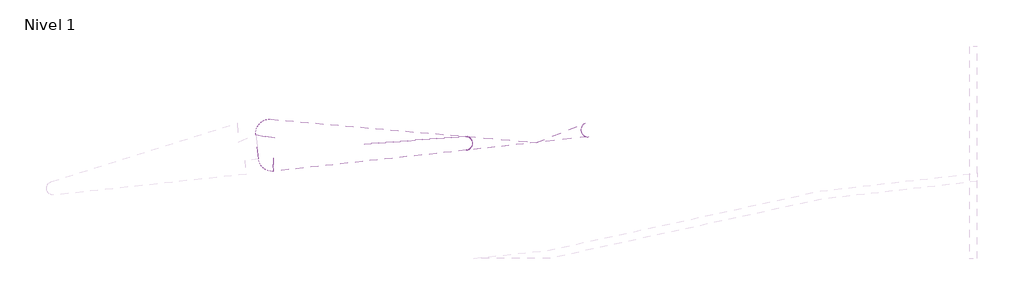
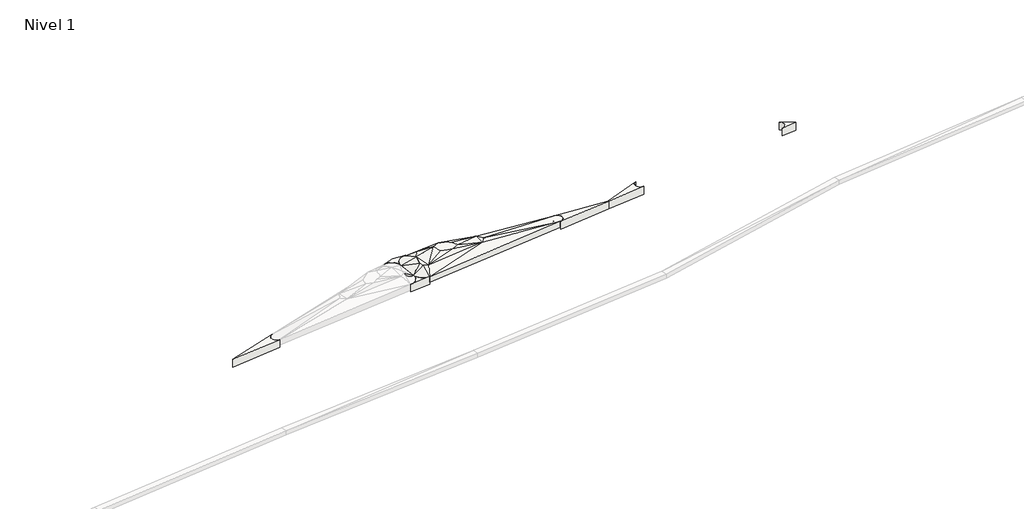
# One storey, part 7 of 45: 2 slabs.
"""IFC4 building model written with IfcOpenShell, lengths in millimetres."""

import ifcopenshell
import ifcopenshell.guid

model = None  # the IFC model being written
_history = None  # IfcOwnerHistory: only IFC2X3 demands one
_inside = {}  # id of a spatial element -> (the spatial element, [elements in it])
_under = {}  # id of a project, library or spatial element -> (it, [spatial elements below it])
_declared = {}  # id of a project -> (the project, [libraries it declares])
_typed = {}  # id of a type object -> (the type object, [elements of that type])
_made_of = {}  # id of a material, layer set ... -> (it, [elements and type objects made of it])


def new_model(schema):
    """Start an empty IFC model of exactly this schema.

    Asked for "IFC4X3", IfcOpenShell would pick the latest addendum, in which some entities
    have other attributes; the version numbers below select the first issue.
    IFC2X3 requires an IfcOwnerHistory on every rooted entity: one is made here for all.
    """
    global model, _history
    if schema == "IFC4X3":
        model = ifcopenshell.file(schema_version=(4, 3, 0, 0))
    else:
        model = ifcopenshell.file(schema=schema)
    _inside.clear()
    _under.clear()
    _declared.clear()
    _typed.clear()
    _made_of.clear()
    _history = None
    if model.schema == "IFC2X3":
        org = make("IfcOrganization", Name="unknown")
        user = make(
            "IfcPersonAndOrganization",
            ThePerson=make("IfcPerson", FamilyName="unknown"),
            TheOrganization=org,
        )
        app = make(
            "IfcApplication",
            ApplicationDeveloper=org,
            Version="unknown",
            ApplicationFullName="unknown",
            ApplicationIdentifier="unknown",
        )
        _history = make(
            "IfcOwnerHistory",
            OwningUser=user,
            OwningApplication=app,
            ChangeAction="ADDED",
            CreationDate=0,
        )
    return model


def make(cls, **values):
    """One entity of the class cls with the attributes given. An attribute that is None is left unset."""
    return model.create_entity(
        cls, **{name: value for name, value in values.items() if value is not None}
    )


def rooted(cls, **values):
    """An entity with a GlobalId (a new one), such as an element, a storey or a relation."""
    return make(cls, GlobalId=ifcopenshell.guid.new(), OwnerHistory=_history, **values)


def si_unit(unit_type, name, prefix=None):
    """IfcSIUnit, for example si_unit("LENGTHUNIT", "METRE", prefix="MILLI")."""
    return make("IfcSIUnit", UnitType=unit_type, Prefix=prefix, Name=name)


def assignment(units):
    """IfcUnitAssignment: the units of a project."""
    return None if units is None else make("IfcUnitAssignment", Units=units)


def point(xyz):
    """IfcCartesianPoint."""
    return None if xyz is None else make("IfcCartesianPoint", Coordinates=xyz)


def direction(xyz):
    """IfcDirection."""
    return None if xyz is None else make("IfcDirection", DirectionRatios=xyz)


def frame(location, z_axis=None, x_axis=None):
    """IfcAxis2Placement3D, a coordinate frame: its origin and axes. An axis left out is left unset."""
    return make(
        "IfcAxis2Placement3D",
        Location=point(location),
        Axis=direction(z_axis),
        RefDirection=direction(x_axis),
    )


def origin():
    """The frame at (0, 0, 0) with its axes left unset."""
    return frame((0.0, 0.0, 0.0))


def place(relative_to, where):
    """IfcLocalPlacement: puts the frame where relative to a parent placement (None: the world)."""
    return make(
        "IfcLocalPlacement", PlacementRelTo=relative_to, RelativePlacement=where
    )


def context(
    kind, dimensions, precision=None, world=None, true_north=None, identifier=None
):
    """IfcGeometricRepresentationContext, for example the 3D "Model" context."""
    return make(
        "IfcGeometricRepresentationContext",
        ContextIdentifier=identifier,
        ContextType=kind,
        CoordinateSpaceDimension=dimensions,
        Precision=precision,
        WorldCoordinateSystem=world,
        TrueNorth=true_north,
    )


def project(units=None, contexts=None):
    """IfcProject with its units and contexts."""
    return rooted(
        "IfcProject",
        Name="project",
        RepresentationContexts=contexts,
        UnitsInContext=assignment(units),
    )


def spatial(cls, under=None, at=None, **own):
    """A site, building, storey or space (cls), placed at a placement, below another one or the project."""
    s = rooted(cls, ObjectPlacement=at, **own)
    if under is not None:
        _under.setdefault(under.id(), (under, []))[1].append(s)
    return s


def polyline(points):
    """IfcPolyline through the points."""
    return make("IfcPolyline", Points=[point(p) for p in points])


def circle_curve(where, radius):
    """IfcCircle in the frame where."""
    return make("IfcCircle", Position=where, Radius=radius)


def shape(context_of_items, identifier, shape_type, items):
    """IfcShapeRepresentation: the items that make up one representation, for example the "Body"."""
    return make(
        "IfcShapeRepresentation",
        ContextOfItems=context_of_items,
        RepresentationIdentifier=identifier,
        RepresentationType=shape_type,
        Items=items,
    )


def made_of(thing, what):
    """Note that an element or type object is made of a material, layer set ...; save() writes the relation."""
    if what is not None:
        _made_of.setdefault(what.id(), (what, []))[1].append(thing)
    return thing


def element(
    cls,
    number,
    at=None,
    inside=None,
    cuts=None,
    type_object=None,
    material=None,
    context=None,
    identifier="Body",
    shape_type=None,
    held_by="IfcProductDefinitionShape",
    body=None,
    shapes=None,
    **own,
):
    """One element of the class cls, such as IfcWall. Its Tag is "e" and its number.

    at: its placement. inside: the storey or other place that contains it. cuts: it is an
    opening in that element (IfcRelVoidsElement). A single representation is given by context,
    identifier, shape_type and body (its items); several are given by shapes. held_by: the class
    of the entity that holds the representations. save() writes the other relations.
    """
    e = rooted(cls, Tag="e%d" % number, ObjectPlacement=at, **own)
    if body is not None:
        shapes = [shape(context, identifier, shape_type, body)]
    if shapes is not None:
        e.Representation = make(held_by, Representations=shapes)
    if inside is not None:
        _inside.setdefault(inside.id(), (inside, []))[1].append(e)
    if cuts is not None:
        rooted(
            "IfcRelVoidsElement", RelatingBuildingElement=cuts, RelatedOpeningElement=e
        )
    if type_object is not None:
        _typed.setdefault(type_object.id(), (type_object, []))[1].append(e)
    return made_of(e, material)


def aggregate(whole, parts):
    """IfcRelAggregates: a whole, such as a stair, and the parts it consists of."""
    return rooted("IfcRelAggregates", RelatingObject=whole, RelatedObjects=parts)


def save(model, path):
    """Write the relations noted so far, then the file.

    IfcRelAggregates (storeys below a building ...), IfcRelContainedInSpatialStructure (elements
    in a storey), IfcRelDefinesByType, IfcRelAssociatesMaterial and IfcRelDeclares: one each for
    every whole, place, type object, material and project.
    """
    for whole, parts in _under.values():
        aggregate(whole, parts)
    for where, things in _inside.values():
        rooted(
            "IfcRelContainedInSpatialStructure",
            RelatedElements=things,
            RelatingStructure=where,
        )
    for kind, things in _typed.values():
        rooted("IfcRelDefinesByType", RelatedObjects=things, RelatingType=kind)
    for what, things in _made_of.values():
        rooted("IfcRelAssociatesMaterial", RelatedObjects=things, RelatingMaterial=what)
    for by, libraries in _declared.values():
        rooted("IfcRelDeclares", RelatingContext=by, RelatedDefinitions=libraries)
    model.write(path)


def plane_surface(at):
    """IfcPlane: the flat surface through the origin of the frame at, square to its z axis."""
    return make("IfcPlane", Position=at)


def cylinder_surface(at, radius):
    """IfcCylindricalSurface: all points at the distance radius from the z axis of the frame at."""
    return make("IfcCylindricalSurface", Position=at, Radius=radius)


def revolved_surface(curve, axis_point, axis_direction):
    """IfcSurfaceOfRevolution: the curve turned about the line through axis_point along axis_direction."""
    return make(
        "IfcSurfaceOfRevolution",
        SweptCurve=make("IfcArbitraryOpenProfileDef", ProfileType="CURVE", Curve=curve),
        AxisPosition=make("IfcAxis1Placement", Location=point(axis_point), Axis=direction(axis_direction)),
    )


def spline_surface(u_degree, v_degree, points, u_multiplicities, v_multiplicities, u_knots, v_knots, weights=None):
    """IfcBSplineSurfaceWithKnots; with weights, IfcRationalBSplineSurfaceWithKnots. points: one row for each step in u."""
    own = dict(
        UDegree=u_degree,
        VDegree=v_degree,
        ControlPointsList=[[point(p) for p in row] for row in points],
        SurfaceForm="UNSPECIFIED",
        UClosed=False,
        VClosed=False,
        SelfIntersect=False,
        UMultiplicities=u_multiplicities,
        VMultiplicities=v_multiplicities,
        UKnots=u_knots,
        VKnots=v_knots,
        KnotSpec="UNSPECIFIED",
    )
    if weights is None:
        return make("IfcBSplineSurfaceWithKnots", **own)
    return make("IfcRationalBSplineSurfaceWithKnots", WeightsData=weights, **own)


def advanced_brep(points, edges, surfaces, faces):
    """IfcAdvancedBrep: a solid bounded by faces that lie on surfaces and meet in shared edges.

    An edge is (start, end): straight between two places in points (the first is 0);
    or (start, end, curve); or (start, end, curve, False) where it runs against its curve.
    A face is (place in surfaces, loops), or (place, loops, False) where it looks against
    its surface's normal. A loop lists edges by number (the first is 1), with a minus sign
    where the edge is run from its end to its start. The first loop is the outer one.
    """
    corners = [point(p) for p in points]
    vertices = [make("IfcVertexPoint", VertexGeometry=c) for c in corners]
    made = []
    for start, end, *more in edges:
        made.append(
            make(
                "IfcEdgeCurve",
                EdgeStart=vertices[start],
                EdgeEnd=vertices[end],
                EdgeGeometry=more[0] if more else make("IfcPolyline", Points=[corners[start], corners[end]]),
                SameSense=more[1] if len(more) > 1 else True,
            )
        )
    hull = []
    for where, loops, *sense in faces:
        bounds = []
        for j, loop in enumerate(loops):
            ring = [make("IfcOrientedEdge", EdgeElement=made[abs(k) - 1], Orientation=k > 0) for k in loop]
            bounds.append(
                make(
                    "IfcFaceOuterBound" if j == 0 else "IfcFaceBound",
                    Bound=make("IfcEdgeLoop", EdgeList=ring),
                    Orientation=True,
                )
            )
        hull.append(make("IfcAdvancedFace", Bounds=bounds, FaceSurface=surfaces[where], SameSense=sense[0] if sense else True))
    return make("IfcAdvancedBrep", Outer=make("IfcClosedShell", CfsFaces=hull))


model = new_model("IFC4")

# Units and contexts
model_context = context("Model", 3, world=origin())
ifc_project = project(units=[si_unit("LENGTHUNIT", "METRE", prefix="MILLI")], contexts=[model_context])

# Site, building, storey
site = spatial("IfcSite", under=ifc_project)
building = spatial("IfcBuilding", under=site)
storey = spatial("IfcBuildingStorey", under=building, Name="Nivel 1", Elevation=0.0)

# Slabs
placement = place(None, origin())
element("IfcSlab", 1, ObjectType="Lippia", at=placement, inside=storey, context=model_context, shape_type="AdvancedBrep", body=[
    advanced_brep(
    [(-177622.2301948, -468834.7688858, 4450.0), (-177622.2301948, -468834.7688858, 4750.0), (-177719.5832024, -467946.7537874, 4750.0), (-177719.5832024, -467946.7537874, 4450.0), (-177176.908669, -467394.3531145, 4750.0), (-177176.908669, -467394.3531145, 4450.0), (-170142.5961564, -468016.5109802, 4750.0), (-170142.5961564, -468016.5109802, 4450.0), (-170138.6386142, -468514.1892207, 4450.0), (-170138.6386142, -468514.1892207, 4750.0), (-177072.9607644, -469274.2877401, 4750.0), (-177072.9607644, -469274.2877401, 4450.0), (-177036.6097883, -468081.3160361, 5050.0), (-177153.7863625, -468567.9849508, 5050.0), (-177036.6097883, -468081.3160361, 4750.0), (-177153.7863625, -468567.9849508, 4750.0), (-175315.1193219, -468133.0046127, 5250.0), (-175577.7321184, -468010.5948546, 5250.0), (-175840.3449148, -467888.1850965, 5250.0), (-176185.7537357, -468044.0671766, 5250.0), (-176037.3018167, -468468.0815162, 5250.0), (-175756.5659875, -468535.9748381, 5250.0), (-175524.7127065, -468592.0463752, 5250.0), (-175182.3438857, -468441.1802589, 5250.0), (-175315.1193219, -468133.0046127, 4950.0), (-175182.3438857, -468441.1802589, 4950.0), (-175524.7127065, -468592.0463752, 4950.0), (-175756.5659875, -468535.9748381, 4950.0), (-176037.3018167, -468468.0815162, 4950.0), (-176185.7537357, -468044.0671766, 4950.0), (-175840.3449148, -467888.1850965, 4950.0), (-175577.7321184, -468010.5948546, 4950.0), (-176880.188072, -468874.6226661, 5050.0), (-177097.2701266, -468792.9364409, 5050.0), (-176880.188072, -468874.6226661, 4750.0), (-177097.2701266, -468792.9364409, 4750.0), (-176831.7166494, -467781.1218363, 5050.0), (-176831.7166494, -467781.1218363, 4750.0), (-176477.665638, -467698.9900077, 5050.0), (-174031.2685457, -468042.635805, 5050.0), (-174031.2685457, -468042.635805, 4750.0), (-176477.665638, -467698.9900077, 4750.0), (-174036.7161624, -468538.4792375, 5050.0), (-174036.7161624, -468538.4792375, 4750.0), (-173816.0601339, -468292.9411318, 5050.0), (-173816.0601339, -468292.9411318, 4750.0)],
    [
        (0, 1),
        (1, 2),
        (2, 3),
        (3, 0),
        (2, 4, circle_curve(frame((-177222.5576429, -467892.2649243, 4750.0), z_axis=(0.0, 0.0, -1.0), x_axis=(-0.19657437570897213, 0.9804889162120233, 0.0)), 499.9999992)),
        (4, 5),
        (5, 3, circle_curve(frame((-177222.5576429, -467892.2649243, 4450.0), z_axis=(0.0, 0.0, 1.0), x_axis=(-0.19657437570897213, 0.9804889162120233, 0.0)), 499.9999992)),
        (4, 6),
        (6, 7),
        (7, 5),
        (8, 9),
        (9, 10),
        (10, 11),
        (11, 8),
        (10, 1, circle_curve(frame((-177125.5712909, -468777.0633112, 4750.0), z_axis=(0.0, 0.0, -1.0), x_axis=(-0.19657437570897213, 0.9804889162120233, 0.0)), 500.0000001)),
        (0, 11, circle_curve(frame((-177125.5712909, -468777.0633112, 4450.0), z_axis=(0.0, 0.0, 1.0), x_axis=(-0.19657437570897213, 0.9804889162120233, 0.0)), 500.0000001)),
        (2, 12),
        (12, 4),
        (1, 13),
        (13, 2),
        (5, 14),
        (14, 3),
        (3, 15),
        (15, 0),
        (16, 17),
        (17, 18),
        (18, 19),
        (19, 20),
        (20, 21),
        (21, 22),
        (22, 23),
        (23, 16),
        (24, 25),
        (25, 26),
        (26, 27),
        (27, 28),
        (28, 29),
        (29, 30),
        (30, 31),
        (31, 24),
        (20, 32),
        (32, 22),
        (10, 32),
        (32, 33),
        (33, 10),
        (19, 32),
        (26, 34),
        (34, 28),
        (11, 35),
        (35, 34),
        (34, 11),
        (34, 29),
        (32, 12),
        (12, 13),
        (13, 33),
        (19, 12),
        (12, 36),
        (36, 4),
        (35, 15),
        (15, 14),
        (14, 34),
        (14, 29),
        (5, 37),
        (37, 14),
        (4, 38),
        (38, 39),
        (39, 4),
        (19, 38),
        (38, 36),
        (36, 19),
        (5, 40),
        (40, 41),
        (41, 5),
        (29, 37),
        (37, 41),
        (41, 29),
        (22, 42),
        (42, 23),
        (23, 39),
        (39, 16),
        (39, 18),
        (25, 43),
        (43, 26),
        (24, 40),
        (40, 25),
        (30, 40),
        (42, 39),
        (40, 43),
        (1, 33),
        (35, 0),
        (10, 42),
        (42, 32),
        (42, 44),
        (44, 39),
        (18, 38),
        (34, 43),
        (43, 11),
        (40, 45),
        (45, 43),
        (41, 30),
        (6, 9, circle_curve(frame((-170164.6220951, -468265.5431703, 4750.0), z_axis=(0.0, 0.0, -1.0), x_axis=(-0.19657437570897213, 0.9804889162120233, 0.0)), 249.9999994)),
        (8, 7, circle_curve(frame((-170164.6220951, -468265.5431703, 4450.0), z_axis=(0.0, 0.0, 1.0), x_axis=(-0.19657437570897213, 0.9804889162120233, 0.0)), 249.9999994)),
        (9, 42),
        (9, 44),
        (6, 44),
        (6, 39),
        (43, 8),
        (45, 8),
        (45, 7),
        (40, 7),
    ],
    [
        plane_surface(frame((-177622.2301948, -468834.7688858, 4450.0), z_axis=(-0.9940442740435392, -0.1089769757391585, 0.0), x_axis=(0.0, 0.0, 1.0))),
        cylinder_surface(frame((-177222.5576429, -467892.2649243, 4750.0), z_axis=(0.0, 0.0, -1.0), x_axis=(-0.19657437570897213, 0.9804889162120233, 0.0)), 499.9999992),
        plane_surface(frame((-177176.908669, -467394.3531145, 4450.0), z_axis=(0.08810222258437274, 0.9961114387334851, 0.0), x_axis=(0.0, 0.0, 1.0))),
        plane_surface(frame((-170138.6386142, -468514.1892207, 4450.0), z_axis=(0.10896131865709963, -0.9940459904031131, 0.0), x_axis=(0.0, 0.0, 1.0))),
        cylinder_surface(frame((-177125.5712909, -468777.0633112, 4750.0), z_axis=(0.0, 0.0, -1.0), x_axis=(-0.19657437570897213, 0.9804889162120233, 0.0)), 500.0000001),
        spline_surface(2, 1, [[(-177176.908669, -467394.3531145, 4750.0), (-177036.6097883, -468081.3160361, 5050.0)], [(-177413.05409741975, -467372.70310281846, 4750.0), (-177036.6097883, -468081.3160361, 5050.0)], [(-177579.23810925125, -467541.86651665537, 4750.0), (-177036.6097883, -468081.3160361, 5050.0)], [(-177745.42212107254, -467711.0299305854, 4750.0), (-177036.6097883, -468081.3160361, 5050.0)], [(-177719.5797792, -467946.7534121, 4750.0), (-177036.6097883, -468081.3160361, 5050.0)]], [3, 2, 3], [2, 2], [0.0, 1.0, 2.0], [0.0, 1.0], weights=[[1.0, 1.0], [0.9035324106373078, 0.9035324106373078], [1.0, 1.0], [0.9035324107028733, 0.9035324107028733], [1.0, 1.0]]),
        plane_surface(frame((-177498.5332532, -468449.8358747, 4850.0), z_axis=(-0.5154225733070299, -0.05650572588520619, 0.8550711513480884), x_axis=(0.10897697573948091, -0.9940442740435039, 0.0))),
        spline_surface(1, 2, [[(-177176.908669, -467394.3531145, 4450.0), (-177413.05409741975, -467372.70310281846, 4450.0), (-177579.23810925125, -467541.86651665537, 4450.0), (-177745.42212107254, -467711.0299305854, 4450.0), (-177719.5797792, -467946.7534121, 4450.0)], [(-177036.6097883, -468081.3160361, 4750.0), (-177036.6097883, -468081.3160361, 4750.0), (-177036.6097883, -468081.3160361, 4750.0), (-177036.6097883, -468081.3160361, 4750.0), (-177036.6097883, -468081.3160361, 4750.0)]], [2, 2], [3, 2, 3], [0.0, 1.0], [0.0, 1.0, 2.0], weights=[[1.0, 0.9035324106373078, 1.0, 0.9035324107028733, 1.0], [1.0, 0.9035324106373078, 1.0, 0.9035324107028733, 1.0]]),
        plane_surface(frame((-177498.5332532, -468449.8358747, 4550.0), z_axis=(0.5154225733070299, 0.05650572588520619, -0.8550711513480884), x_axis=(0.10897697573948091, -0.9940442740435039, 0.0))),
        plane_surface(frame((-175680.9293969, -468261.0941727, 5250.0), z_axis=(0.0, 0.0, 1.0), x_axis=(-0.9063720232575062, 0.4224804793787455, 0.0))),
        plane_surface(frame((-175680.9293969, -468261.0941727, 4950.0), z_axis=(0.0, 0.0, -1.0), x_axis=(-0.9063720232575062, 0.4224804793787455, 0.0))),
        plane_surface(frame((-176147.4008651, -468644.9168525, 5183.3333333), z_axis=(-0.07509005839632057, -0.31049401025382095, 0.947604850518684), x_axis=(-0.9719798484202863, 0.23506419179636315, 0.0))),
        plane_surface(frame((-177016.806321, -468980.6156157, 4950.0), z_axis=(-0.19779889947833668, -0.525652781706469, 0.8273842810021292), x_axis=(0.35990275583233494, 0.7461666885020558, 0.5600939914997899))),
        plane_surface(frame((-176367.7478748, -468462.2571196, 5183.3333333), z_axis=(-0.1984616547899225, -0.06948353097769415, 0.9776425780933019), x_axis=(-0.6307668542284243, -0.7544080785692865, -0.18166349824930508))),
        plane_surface(frame((-176147.4008651, -468644.9168525, 4883.3333333), z_axis=(0.07509005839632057, 0.31049401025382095, -0.947604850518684), x_axis=(-0.9719798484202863, 0.23506419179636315, 0.0))),
        plane_surface(frame((-177016.806321, -468980.6156157, 4650.0), z_axis=(0.19779889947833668, 0.525652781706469, -0.8273842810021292), x_axis=(0.35990275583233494, 0.7461666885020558, 0.5600939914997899))),
        plane_surface(frame((-176367.7478748, -468462.2571196, 4883.3333333), z_axis=(0.1984616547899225, 0.06948353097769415, -0.9776425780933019), x_axis=(-0.6307668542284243, -0.7544080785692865, -0.18166349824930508))),
        plane_surface(frame((-177041.9635874, -468579.2150235, 5050.0), z_axis=(0.0, 0.0, 1.0), x_axis=(-0.1934521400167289, 0.9811097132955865, 0.0))),
        plane_surface(frame((-176700.850532, -468333.3352929, 5116.6666667), z_axis=(-0.2267370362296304, -0.04470729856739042, 0.9729293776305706), x_axis=(-0.9725857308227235, -0.04257795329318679, -0.22861346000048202))),
        plane_surface(frame((-177015.0783689, -467752.2636623, 4950.0), z_axis=(-0.4229879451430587, 0.28870420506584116, 0.8589127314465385), x_axis=(0.1839675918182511, -0.9007834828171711, 0.3933764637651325))),
        plane_surface(frame((-177303.3264511, -468198.6849248, 4950.0), z_axis=(-0.38506660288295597, 0.0927135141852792, 0.918219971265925), x_axis=(0.6341459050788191, -0.6962767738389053, 0.33624042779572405))),
        plane_surface(frame((-177041.9635874, -468579.2150235, 4750.0), z_axis=(0.0, 0.0, -1.0), x_axis=(-0.1934521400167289, 0.9811097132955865, 0.0))),
        plane_surface(frame((-176700.850532, -468333.3352929, 4816.6666667), z_axis=(0.2267370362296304, 0.04470729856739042, -0.9729293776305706), x_axis=(-0.9725857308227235, -0.04257795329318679, -0.22861346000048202))),
        plane_surface(frame((-177015.0783689, -467752.2636623, 4650.0), z_axis=(0.4229879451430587, -0.28870420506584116, -0.8589127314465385), x_axis=(0.1839675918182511, -0.9007834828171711, 0.3933764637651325))),
        plane_surface(frame((-177303.3264511, -468198.6849248, 4650.0), z_axis=(0.38506660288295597, -0.0927135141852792, -0.918219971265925), x_axis=(0.6341459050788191, -0.6962767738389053, 0.33624042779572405))),
        plane_surface(frame((-175895.2809509, -467711.9929757, 4950.0), z_axis=(0.11495655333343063, 0.8183699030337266, 0.5630769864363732), x_axis=(0.8531513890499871, -0.3716896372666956, 0.36603213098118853))),
        plane_surface(frame((-176498.3786744, -467841.3930069, 5116.6666667), z_axis=(-0.1006337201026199, 0.4338083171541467, 0.8953676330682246), x_axis=(-0.5906065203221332, 0.6981723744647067, -0.4046470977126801))),
        plane_surface(frame((-175895.2809509, -467711.9929757, 4650.0), z_axis=(-0.11495655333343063, -0.8183699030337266, -0.5630769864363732), x_axis=(0.8531513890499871, -0.3716896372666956, 0.36603213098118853))),
        plane_surface(frame((-176498.3786744, -467841.3930069, 4816.6666667), z_axis=(0.1006337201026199, -0.4338083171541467, -0.8953676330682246), x_axis=(-0.5906065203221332, 0.6981723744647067, -0.4046470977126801))),
        plane_surface(frame((-174914.5909182, -468523.9019572, 5183.3333333), z_axis=(0.13758334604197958, -0.3122254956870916, 0.9399925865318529), x_axis=(-0.9150943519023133, -0.40323978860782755, 0.0))),
        plane_surface(frame((-174842.9105844, -468205.6068922, 5183.3333333), z_axis=(0.149187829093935, 0.06427658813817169, 0.9867175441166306), x_axis=(0.3956813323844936, -0.9183878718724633, 0.0))),
        plane_surface(frame((-175062.2442608, -468021.2751714, 5183.3333333), z_axis=(0.128890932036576, 0.2765172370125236, 0.95232628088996), x_axis=(0.9857014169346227, 0.0693824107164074, -0.15355389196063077))),
        plane_surface(frame((-174914.5909182, -468523.9019572, 4883.3333333), z_axis=(-0.13758334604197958, 0.3122254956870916, -0.9399925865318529), x_axis=(-0.9150943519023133, -0.40323978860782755, 0.0))),
        plane_surface(frame((-174842.9105844, -468205.6068922, 4883.3333333), z_axis=(-0.149187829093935, -0.06427658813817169, -0.9867175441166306), x_axis=(0.3956813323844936, -0.9183878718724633, 0.0))),
        plane_surface(frame((-175062.2442608, -468021.2751714, 4883.3333333), z_axis=(-0.128890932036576, -0.2765172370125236, -0.95232628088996), x_axis=(0.9857014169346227, 0.0693824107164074, -0.15355389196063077))),
        plane_surface(frame((-174416.7761979, -468340.7651005, 5116.6666667), z_axis=(0.1718199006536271, -0.0018877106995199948, 0.985126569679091), x_axis=(0.9816713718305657, -0.08337404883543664, -0.17137702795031))),
        plane_surface(frame((-174416.7761979, -468340.7651005, 4816.6666667), z_axis=(-0.1718199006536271, 0.0018877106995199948, -0.985126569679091), x_axis=(0.9816713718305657, -0.08337404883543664, -0.17137702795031))),
        plane_surface(frame((-177291.0955613, -468731.8967592, 4950.0), z_axis=(-0.48512903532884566, -0.1218825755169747, 0.8659067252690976), x_axis=(0.8661563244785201, 0.06902131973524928, 0.49498411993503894))),
        spline_surface(2, 1, [[(-177622.2301948, -468834.7688858, 4750.0), (-177097.2701266, -468792.9364409, 5050.0)], [(-177565.11324687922, -469326.36161197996, 4750.0), (-177097.2701266, -468792.9364409, 5050.0)], [(-177072.9607644, -469274.2877401, 4750.0), (-177097.2701266, -468792.9364409, 5050.0)]], [3, 3], [2, 2], [0.0, 1.0], [0.0, 1.0], weights=[[1.0, 1.0], [0.7107223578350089, 0.7107223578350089], [1.0, 1.0]]),
        plane_surface(frame((-177291.0955613, -468731.8967592, 4650.0), z_axis=(0.48512903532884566, 0.1218825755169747, -0.8659067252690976), x_axis=(0.8661563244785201, 0.06902131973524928, 0.49498411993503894))),
        spline_surface(1, 2, [[(-177622.2301948, -468834.7688858, 4450.0), (-177565.11324687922, -469326.36161197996, 4450.0), (-177072.9607644, -469274.2877401, 4450.0)], [(-177097.2701266, -468792.9364409, 4750.0), (-177097.2701266, -468792.9364409, 4750.0), (-177097.2701266, -468792.9364409, 4750.0)]], [2, 2], [3, 3], [0.0, 1.0], [0.0, 1.0], weights=[[1.0, 0.7107223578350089, 1.0], [1.0, 0.7107223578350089, 1.0]]),
        plane_surface(frame((-176684.6933911, -467968.8350163, 5116.6666667), z_axis=(-0.23249954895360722, 0.15868914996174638, 0.9595632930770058), x_axis=(-0.890320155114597, 0.3624132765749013, -0.2756567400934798))),
        plane_surface(frame((-176684.6933911, -467968.8350163, 4816.6666667), z_axis=(0.23249954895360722, -0.15868914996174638, -0.9595632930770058), x_axis=(-0.890320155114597, 0.3624132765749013, -0.2756567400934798))),
        plane_surface(frame((-175996.6216663, -468895.7965479, 4950.0), z_axis=(0.07342528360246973, -0.6211120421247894, 0.7802746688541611), x_axis=(0.9674183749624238, 0.23444575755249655, 0.09558699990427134))),
        plane_surface(frame((-173961.3482806, -468291.3520581, 5050.0), z_axis=(0.0, 0.0, 1.0000000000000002), x_axis=(-0.01098590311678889, -0.9999396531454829, 0.0))),
        plane_surface(frame((-176167.9214295, -467877.0807602, 5183.3333333), z_axis=(-0.17196163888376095, 0.3810384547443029, 0.9084266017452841), x_axis=(0.9114784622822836, 0.4113478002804, 0.0))),
        plane_surface(frame((-176828.7636521, -467624.8216528, 4950.0), z_axis=(-0.12443482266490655, 0.5364092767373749, 0.8347341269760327), x_axis=(0.5763234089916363, -0.6457387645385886, 0.5008720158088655))),
        plane_surface(frame((-175996.6216663, -468895.7965479, 4650.0), z_axis=(-0.07342528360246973, 0.6211120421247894, -0.7802746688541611), x_axis=(0.9674183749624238, 0.23444575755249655, 0.09558699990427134))),
        plane_surface(frame((-173961.3482806, -468291.3520581, 4750.0), z_axis=(0.0, 0.0, -1.0000000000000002), x_axis=(-0.01098590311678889, -0.9999396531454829, 0.0))),
        plane_surface(frame((-176167.9214295, -467877.0807602, 4883.3333333), z_axis=(0.17196163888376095, -0.3810384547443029, -0.9084266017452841), x_axis=(0.9114784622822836, 0.4113478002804, 0.0))),
        plane_surface(frame((-176828.7636521, -467624.8216528, 4650.0), z_axis=(0.12443482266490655, -0.5364092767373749, -0.8347341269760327), x_axis=(0.5763234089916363, -0.6457387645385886, 0.5008720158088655))),
        plane_surface(frame((-175480.5389803, -468668.3827596, 5116.6666667), z_axis=(0.10033661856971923, -0.8487577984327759, 0.5191750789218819), x_axis=(-0.9688982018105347, -0.20198645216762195, -0.14296065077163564))),
        plane_surface(frame((-175480.5389803, -468668.3827596, 4816.6666667), z_axis=(-0.10033661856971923, 0.8487577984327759, -0.5191750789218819), x_axis=(-0.9688982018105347, -0.20198645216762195, -0.14296065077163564))),
        plane_surface(frame((-175449.7596995, -467876.6036364, 5116.6666667), z_axis=(0.12474108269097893, 0.8880254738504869, 0.4425499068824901), x_axis=(0.9903849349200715, -0.08455455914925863, -0.10949067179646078))),
        plane_surface(frame((-175449.7596995, -467876.6036364, 4816.6666667), z_axis=(-0.12474108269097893, -0.8880254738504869, -0.4425499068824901), x_axis=(0.9903849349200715, -0.08455455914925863, -0.10949067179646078))),
        cylinder_surface(frame((-170164.6220951, -468265.5431703, 4750.0), z_axis=(0.0, 0.0, -1.0), x_axis=(-0.19657437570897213, 0.9804889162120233, 0.0)), 249.9999994),
        plane_surface(frame((-173749.4385137, -468775.6520661, 4850.0), z_axis=(0.06531467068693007, -0.595860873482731, 0.8004272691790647), x_axis=(0.9940459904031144, 0.10896131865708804, 0.0))),
        plane_surface(frame((-172663.8049701, -468448.53653, 4950.0), z_axis=(0.07697879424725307, -0.06917799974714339, 0.9946299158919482), x_axis=(0.9970323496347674, 0.006212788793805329, -0.0767326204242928))),
        spline_surface(2, 1, [[(-170138.6386142, -468514.1892207, 4750.0), (-173816.0601339, -468292.9411318, 5050.0)], [(-169912.8244133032, -468490.59166519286, 4750.0), (-173816.0601339, -468292.9411318, 5050.0)], [(-169914.63000138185, -468263.5550210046, 4750.0), (-173816.0601339, -468292.9411318, 5050.0)], [(-169916.43558954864, -468036.51837680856, 4750.0), (-173816.0601339, -468292.9411318, 5050.0)], [(-170142.5965395, -468016.5153112, 4750.0), (-173816.0601339, -468292.9411318, 5050.0)]], [3, 2, 3], [2, 2], [0.0, 1.0, 2.0], [0.0, 1.0], weights=[[1.0, 1.0], [0.740277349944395, 0.740277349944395], [1.0, 1.0], [0.7402773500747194, 0.7402773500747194], [1.0, 1.0]]),
        plane_surface(frame((-172663.3082787, -468117.362639, 4950.0), z_axis=(0.07631463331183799, 0.0656140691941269, 0.9949225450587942), x_axis=(0.6519449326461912, -0.7582663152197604, 0.0))),
        plane_surface(frame((-173783.5911237, -467817.8332999, 4850.0), z_axis=(0.055611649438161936, 0.6287627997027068, 0.7756060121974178), x_axis=(0.9751721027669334, -0.20097251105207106, 0.09300225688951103))),
        plane_surface(frame((-173749.4385137, -468775.6520661, 4550.0), z_axis=(-0.06531467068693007, 0.595860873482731, -0.8004272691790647), x_axis=(0.9940459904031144, 0.10896131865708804, 0.0))),
        plane_surface(frame((-172663.8049701, -468448.53653, 4650.0), z_axis=(-0.07697879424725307, 0.06917799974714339, -0.9946299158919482), x_axis=(0.9970323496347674, 0.006212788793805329, -0.0767326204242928))),
        spline_surface(1, 2, [[(-170138.6386142, -468514.1892207, 4450.0), (-169912.8244133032, -468490.59166519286, 4450.0), (-169914.63000138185, -468263.5550210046, 4450.0), (-169916.43558954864, -468036.51837680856, 4450.0), (-170142.5965395, -468016.5153112, 4450.0)], [(-173816.0601339, -468292.9411318, 4750.0), (-173816.0601339, -468292.9411318, 4750.0), (-173816.0601339, -468292.9411318, 4750.0), (-173816.0601339, -468292.9411318, 4750.0), (-173816.0601339, -468292.9411318, 4750.0)]], [2, 2], [3, 2, 3], [0.0, 1.0], [0.0, 1.0, 2.0], weights=[[1.0, 0.740277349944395, 1.0, 0.7402773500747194, 1.0], [1.0, 0.740277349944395, 1.0, 0.7402773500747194, 1.0]]),
        plane_surface(frame((-172663.3082787, -468117.362639, 4650.0), z_axis=(-0.07631463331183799, -0.0656140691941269, -0.9949225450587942), x_axis=(0.6519449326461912, -0.7582663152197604, 0.0))),
        plane_surface(frame((-173783.5911237, -467817.8332999, 4550.0), z_axis=(-0.055611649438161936, -0.6287627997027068, -0.7756060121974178), x_axis=(0.9751721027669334, -0.20097251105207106, 0.09300225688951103))),
    ],
    [
        (0, [[1, 2, 3, 4]]),
        (1, [[-3, 5, 6, 7]]),
        (2, [[-6, 8, 9, 10]]),
        (3, [[11, 12, 13, 14]]),
        (4, [[-13, 15, -1, 16]]),
        (5, [[-5, 17, 18]]),
        (6, [[-2, 19, 20]]),
        (7, [[21, 22, -7]]),
        (8, [[23, 24, -4]]),
        (9, [[25, 26, 27, 28, 29, 30, 31, 32]]),
        (10, [[33, 34, 35, 36, 37, 38, 39, 40]]),
        (11, [[-29, 41, 42, -30]]),
        (12, [[43, 44, 45]]),
        (13, [[46, -41, -28]]),
        (14, [[-35, 47, 48, -36]]),
        (15, [[49, 50, 51]]),
        (16, [[-37, -48, 52]]),
        (17, [[53, 54, 55, -44]]),
        (18, [[56, -53, -46]]),
        (19, [[-18, 57, 58]]),
        (20, [[-20, -54, -17]]),
        (21, [[-50, 59, 60, 61]]),
        (22, [[-52, -61, 62]]),
        (23, [[63, 64, -21]]),
        (24, [[-22, -60, -23]]),
        (25, [[65, 66, 67]]),
        (26, [[68, 69, 70]]),
        (27, [[71, 72, 73]]),
        (28, [[74, 75, 76]]),
        (29, [[-31, 77, 78]]),
        (30, [[-32, 79, 80]]),
        (31, [[-80, 81, -26, -25]]),
        (32, [[82, 83, -34]]),
        (33, [[84, 85, -33]]),
        (34, [[-40, -39, 86, -84]]),
        (35, [[-78, 87, -79]]),
        (36, [[-85, 88, -82]]),
        (37, [[89, -55, -19]]),
        (38, [[-45, -89, -15]]),
        (39, [[-24, -59, 90]]),
        (40, [[-16, -90, -49]]),
        (41, [[-70, -57, -56]]),
        (42, [[-62, -64, -74]]),
        (43, [[91, 92, -43]]),
        (44, [[-87, 93, 94]]),
        (45, [[-27, 95, -68]]),
        (46, [[-58, -69, -65]]),
        (47, [[-51, 96, 97]]),
        (48, [[98, 99, -88]]),
        (49, [[-76, 100, -38]]),
        (50, [[-73, -75, -63]]),
        (51, [[-42, -92, -77]]),
        (52, [[-83, -96, -47]]),
        (53, [[-81, -66, -95]]),
        (54, [[-100, -72, -86]]),
        (55, [[-9, 101, -11, 102]]),
        (56, [[-12, 103, -91]]),
        (57, [[-103, 104, -93]]),
        (58, [[-104, -101, 105]]),
        (59, [[-94, -105, 106]]),
        (60, [[-67, -106, -8]]),
        (61, [[-97, 107, -14]]),
        (62, [[-99, 108, -107]]),
        (63, [[109, -102, -108]]),
        (64, [[110, -109, -98]]),
        (65, [[-10, -110, -71]]),
    ],
),
])
element("IfcSlab", 2, ObjectType="Bordillo", at=placement, inside=storey, context=model_context, shape_type="AdvancedBrep", body=[
    advanced_brep(
    [(-157669.3560943, -467147.320502, 4350.0), (-157669.3560943, -467147.320502, 4750.0), (-158383.6254023, -467225.6157732, 4750.0), (-158383.6254023, -467225.6157732, 4350.0), (-158265.6478271, -466768.1496694, 4750.0), (-158265.6478271, -466768.1496694, 4350.0)],
    [
        (0, 1),
        (1, 2),
        (2, 3),
        (3, 0),
        (2, 4, circle_curve(frame((-158411.1434507, -466974.5751029, 4750.0), z_axis=(0.0, 0.0, 1.0), x_axis=(-0.19670504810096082, 0.9804627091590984, 0.0)), 252.5478887)),
        (4, 5),
        (5, 3, circle_curve(frame((-158411.1434507, -466974.5751029, 4350.0), z_axis=(0.0, 0.0, -1.0), x_axis=(-0.19670504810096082, 0.9804627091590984, 0.0)), 252.5478887)),
        (4, 1),
        (0, 5),
    ],
    [
        plane_surface(frame((-157669.3560943, -467147.320502, 4350.0), z_axis=(0.1089632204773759, -0.994045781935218, 0.0), x_axis=(0.0, 0.0, 1.0))),
        revolved_surface(polyline([(-158460.82089529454, -466726.96131575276, 4750.0), (-158460.82089529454, -466726.96131575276, 4350.0)]), (-158411.1434507, -466974.5751029, 4750.0), (0.0, 0.0, 1.0)),
        plane_surface(frame((-158265.6478271, -466768.1496694, 4350.0), z_axis=(0.536585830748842, 0.8438457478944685, 0.0), x_axis=(0.0, 0.0, 1.0))),
        plane_surface(frame((-158106.2097746, -467047.0286482, 4750.0), z_axis=(0.0, 0.0, 1.0), x_axis=(-0.19670504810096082, 0.9804627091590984, 0.0))),
        plane_surface(frame((-158106.2097746, -467047.0286482, 4350.0), z_axis=(0.0, 0.0, -1.0), x_axis=(-0.19670504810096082, 0.9804627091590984, 0.0))),
    ],
    [
        (0, [[1, 2, 3, 4]]),
        (1, [[-3, 5, 6, 7]]),
        (2, [[-6, 8, -1, 9]]),
        (3, [[-5, -2, -8]]),
        (4, [[-9, -4, -7]]),
    ],
),
    advanced_brep(
    [(-167571.8366856, -468232.7897989, 4350.0), (-167571.8366856, -468232.7897989, 4750.0), (-170124.812017, -468512.636481, 4750.0), (-170124.812017, -468512.636481, 4350.0), (-170121.0408815, -468012.5867419, 4750.0), (-170121.0408815, -468012.5867419, 4350.0), (-167616.7624546, -468233.7441662, 4750.0), (-167616.7624546, -468233.7441662, 4350.0), (-165849.8001901, -467548.1014599, 4750.0), (-165849.8001901, -467548.1014599, 4350.0), (-165722.1907501, -468030.041245, 4750.0), (-165722.1907501, -468030.041245, 4350.0)],
    [
        (0, 1),
        (1, 2),
        (2, 3),
        (3, 0),
        (2, 4, circle_curve(frame((-170152.7283899, -468262.3868595, 4750.0), z_axis=(0.0, 0.0, 1.0), x_axis=(-0.19670504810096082, 0.9804627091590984, 0.0)), 251.8019001)),
        (4, 5),
        (5, 3, circle_curve(frame((-170152.7283899, -468262.3868595, 4350.0), z_axis=(0.0, 0.0, -1.0), x_axis=(-0.19670504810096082, 0.9804627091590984, 0.0)), 251.8019001)),
        (4, 6),
        (6, 7),
        (7, 5),
        (6, 8),
        (8, 9),
        (9, 7),
        (8, 10, circle_curve(frame((-165749.6595113, -467779.4502099, 4750.0), z_axis=(0.0, 0.0, 1.0), x_axis=(-0.19670504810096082, 0.9804627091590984, 0.0)), 252.0920461)),
        (10, 11),
        (11, 9, circle_curve(frame((-165749.6595113, -467779.4502099, 4350.0), z_axis=(0.0, 0.0, -1.0), x_axis=(-0.19670504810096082, 0.9804627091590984, 0.0)), 252.0920461)),
        (10, 1),
        (0, 11),
    ],
    [
        plane_surface(frame((-167571.8366856, -468232.7897989, 4350.0), z_axis=(0.1089632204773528, -0.9940457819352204, 0.0), x_axis=(0.0, 0.0, 1.0))),
        revolved_surface(polyline([(-170202.25909477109, -468015.50448635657, 4750.0), (-170202.25909477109, -468015.50448635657, 4350.0)]), (-170152.7283899, -468262.3868595, 0.0), (0.0, 0.0, 1.0)),
        plane_surface(frame((-170121.0408815, -468012.5867419, 4350.0), z_axis=(0.08796946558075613, 0.9961231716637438, 0.0), x_axis=(0.0, 0.0, 1.0))),
        plane_surface(frame((-167616.7624546, -468233.7441662, 4350.0), z_axis=(-0.36175445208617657, 0.932273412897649, 0.0), x_axis=(0.0, 0.0, 1.0))),
        revolved_surface(polyline([(-165799.24728935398, -467532.28335942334, 4750.0), (-165799.24728935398, -467532.28335942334, 4350.0)]), (-165749.6595113, -467779.4502099, 0.0), (0.0, 0.0, 1.0)),
        plane_surface(frame((-165722.1909717, -468030.039224, 4350.0), z_axis=(0.10896322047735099, -0.9940457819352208, 0.0), x_axis=(0.0, 0.0, 1.0))),
        plane_surface(frame((-167834.4071632, -468094.9833155, 4750.0), z_axis=(0.0, 0.0, 1.0), x_axis=(-0.19670504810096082, 0.9804627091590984, 0.0))),
        plane_surface(frame((-167834.4071632, -468094.9833155, 4350.0), z_axis=(0.0, 0.0, -1.0), x_axis=(-0.19670504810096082, 0.9804627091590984, 0.0))),
    ],
    [
        (0, [[1, 2, 3, 4]]),
        (1, [[-3, 5, 6, 7]]),
        (2, [[-6, 8, 9, 10]]),
        (3, [[-9, 11, 12, 13]]),
        (4, [[-12, 14, 15, 16]]),
        (5, [[-15, 17, -1, 18]]),
        (6, [[-14, -11, -8, -5, -2, -17]]),
        (7, [[-18, -4, -7, -10, -13, -16]]),
    ],
),
    advanced_brep(
    [(-177167.7391822, -467390.2772976, 4350.0), (-177167.7391822, -467390.2772976, 4750.0), (-177711.2174151, -467910.838716, 4750.0), (-177711.2174151, -467910.838716, 4350.0), (-178290.8465843, -467499.9019201, 4750.0), (-178290.8465843, -467499.9019201, 4350.0), (-177775.289076, -467336.6260352, 4750.0), (-177775.289076, -467336.6260352, 4350.0)],
    [
        (0, 1),
        (1, 2, circle_curve(frame((-177211.7239149, -467888.3388826, 4750.0), z_axis=(0.0, 0.0, 1.0), x_axis=(-0.19670504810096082, 0.9804627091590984, 0.0)), 499.9999992)),
        (2, 3),
        (3, 0, circle_curve(frame((-177211.7239149, -467888.3388826, 4350.0), z_axis=(0.0, 0.0, -1.0), x_axis=(-0.19670504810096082, 0.9804627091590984, 0.0)), 499.9999992)),
        (2, 4, circle_curve(frame((-178206.4855195, -467995.163917, 4750.0), z_axis=(0.0, 0.0, 1.0), x_axis=(-0.19670504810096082, 0.9804627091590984, 0.0)), 502.3954964)),
        (4, 5),
        (5, 3, circle_curve(frame((-178206.4855195, -467995.163917, 4350.0), z_axis=(0.0, 0.0, -1.0), x_axis=(-0.19670504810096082, 0.9804627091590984, 0.0)), 502.3954964)),
        (4, 6),
        (6, 7),
        (7, 5),
        (6, 1),
        (0, 7),
    ],
    [
        revolved_surface(polyline([(-177310.07643879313, -467398.10752880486, 4750.0), (-177310.07643879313, -467398.10752880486, 4350.0)]), (-177211.7239149, -467888.3388826, 0.0), (0.0, 0.0, 1.0)),
        revolved_surface(polyline([(-178305.3092497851, -467502.58386753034, 4750.0), (-178305.3092497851, -467502.58386753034, 4350.0)]), (-178206.4855195, -467995.163917, 0.0), (0.0, 0.0, 1.0)),
        plane_surface(frame((-178290.8465843, -467499.9019201, 4350.0), z_axis=(-0.3019186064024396, 0.9533337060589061, 0.0), x_axis=(0.0, 0.0, 1.0))),
        plane_surface(frame((-177775.289076, -467336.6260352, 4350.0), z_axis=(0.08796946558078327, 0.9961231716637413, 0.0), x_axis=(0.0, 0.0, 1.0))),
        plane_surface(frame((-177736.273121, -467534.4116332, 4750.0), z_axis=(0.0, 0.0, 1.0), x_axis=(-0.9533337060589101, -0.301918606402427, 0.0))),
        plane_surface(frame((-177736.273121, -467534.4116332, 4350.0), z_axis=(0.0, 0.0, -1.0), x_axis=(-0.9533337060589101, -0.301918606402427, 0.0))),
    ],
    [
        (0, [[1, 2, 3, 4]]),
        (1, [[-3, 5, 6, 7]]),
        (2, [[-6, 8, 9, 10]]),
        (3, [[-9, 11, -1, 12]]),
        (4, [[-8, -5, -2, -11]]),
        (5, [[-12, -4, -7, -10]]),
    ],
),
    advanced_brep(
    [(-178054.2702699, -469381.8367831, 4350.0), (-178054.2702699, -469381.8367831, 4750.0), (-177608.3341973, -468857.881559, 4750.0), (-177608.3341973, -468857.881559, 4350.0), (-177059.4193678, -469272.784734, 4750.0), (-177059.4193678, -469272.784734, 4350.0)],
    [
        (0, 1),
        (1, 2, circle_curve(frame((-178108.8837689, -468883.6107018, 4750.0), z_axis=(0.0, 0.0, 1.0), x_axis=(-0.19670504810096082, 0.9804627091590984, 0.0)), 501.2103973)),
        (2, 3),
        (3, 0, circle_curve(frame((-178108.8837689, -468883.6107018, 4350.0), z_axis=(0.0, 0.0, -1.0), x_axis=(-0.19670504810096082, 0.9804627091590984, 0.0)), 501.2103973)),
        (2, 4, circle_curve(frame((-177114.0403253, -468774.4906109, 4750.0), z_axis=(0.0, 0.0, 1.0), x_axis=(-0.19670504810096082, 0.9804627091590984, 0.0)), 501.2788467)),
        (4, 5),
        (5, 3, circle_curve(frame((-177114.0403253, -468774.4906109, 4350.0), z_axis=(0.0, 0.0, -1.0), x_axis=(-0.19670504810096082, 0.9804627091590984, 0.0)), 501.2788467)),
        (4, 1),
        (0, 5),
    ],
    [
        revolved_surface(polyline([(-178207.4743842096, -468392.19259780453, 4750.0), (-178207.4743842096, -468392.19259780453, 4350.0)]), (-178108.8837689, -468883.6107018, 0.0), (0.0, 0.0, 1.0)),
        revolved_surface(polyline([(-177212.64440495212, -468283.00539482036, 4750.0), (-177212.64440495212, -468283.00539482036, 4350.0)]), (-177114.0403253, -468774.4906109, 0.0), (0.0, 0.0, 1.0)),
        plane_surface(frame((-177059.4199143, -469272.779749, 4350.0), z_axis=(0.10896322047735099, -0.9940457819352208, 0.0), x_axis=(0.0, 0.0, 1.0))),
        plane_surface(frame((-177574.0081479, -469170.8325078, 4750.0), z_axis=(0.0, 0.0, 1.0), x_axis=(-0.19670504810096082, 0.9804627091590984, 0.0))),
        plane_surface(frame((-177574.0081479, -469170.8325078, 4350.0), z_axis=(0.0, 0.0, -1.0), x_axis=(-0.19670504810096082, 0.9804627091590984, 0.0))),
    ],
    [
        (0, [[1, 2, 3, 4]]),
        (1, [[-3, 5, 6, 7]]),
        (2, [[-6, 8, -1, 9]]),
        (3, [[-5, -2, -8]]),
        (4, [[-9, -4, -7]]),
    ],
),
    advanced_brep(
    [(-185090.6404207, -469653.3688527, 4350.0), (-185090.6404207, -469653.3688527, 4750.0), (-185003.6464215, -470143.593267, 4750.0), (-185003.6464215, -470143.593267, 4350.0), (-187503.9285935, -470417.6639411, 4750.0), (-187503.9285935, -470417.6639411, 4350.0)],
    [
        (0, 1),
        (1, 2, circle_curve(frame((-185014.829973, -469892.7467961, 4750.0), z_axis=(0.0, 0.0, 1.0), x_axis=(-0.19670504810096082, 0.9804627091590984, 0.0)), 251.0956467)),
        (2, 3),
        (3, 0, circle_curve(frame((-185014.829973, -469892.7467961, 4350.0), z_axis=(0.0, 0.0, -1.0), x_axis=(-0.19670504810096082, 0.9804627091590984, 0.0)), 251.0956467)),
        (2, 4),
        (4, 5),
        (5, 3),
        (4, 1),
        (0, 5),
    ],
    [
        revolved_surface(polyline([(-185064.22175426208, -469646.55687807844, 4750.0), (-185064.22175426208, -469646.55687807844, 4350.0)]), (-185014.829973, -469892.7467961, 0.0), (0.0, 0.0, 1.0)),
        plane_surface(frame((-185003.6464215, -470143.593267, 4350.0), z_axis=(0.10896322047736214, -0.9940457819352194, 0.0), x_axis=(0.0, 0.0, 1.0))),
        plane_surface(frame((-187503.9285935, -470417.6639411, 4350.0), z_axis=(-0.3019186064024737, 0.9533337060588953, 0.0), x_axis=(0.0, 0.0, 1.0))),
        plane_surface(frame((-185866.0706377, -470071.5457278, 4750.0), z_axis=(0.0, 0.0, 1.0), x_axis=(0.9940457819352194, 0.10896322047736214, 0.0))),
        plane_surface(frame((-185866.0706377, -470071.5457278, 4350.0), z_axis=(0.0, 0.0, -1.0), x_axis=(0.9940457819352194, 0.10896322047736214, 0.0))),
    ],
    [
        (0, [[1, 2, 3, 4]]),
        (1, [[-3, 5, 6, 7]]),
        (2, [[-6, 8, -1, 9]]),
        (3, [[-5, -2, -8]]),
        (4, [[-9, -4, -7]]),
    ],
),
])

save(model, "model.ifc")
